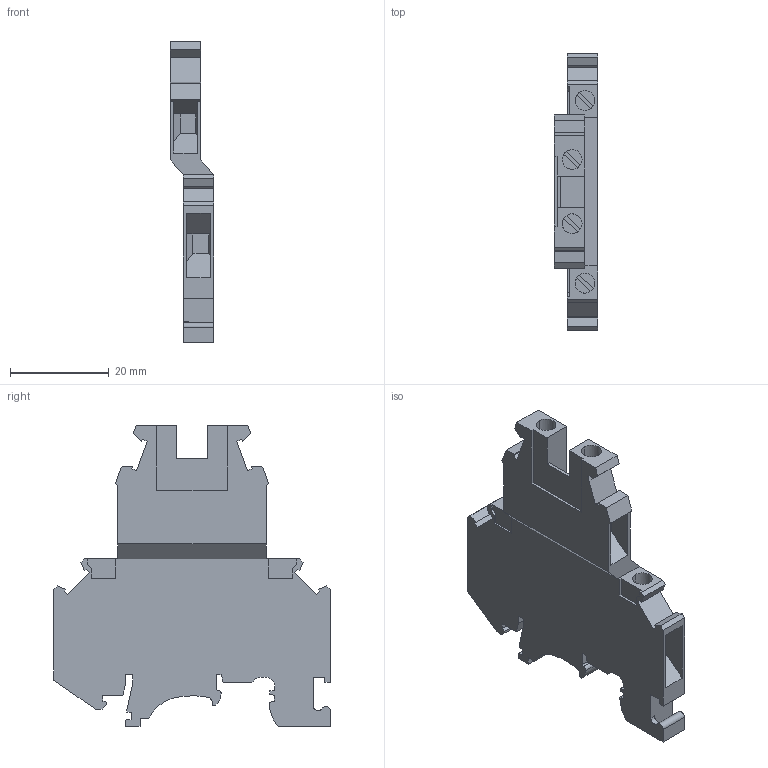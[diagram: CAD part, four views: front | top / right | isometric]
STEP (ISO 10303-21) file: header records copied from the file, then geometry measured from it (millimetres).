
FILE_DESCRIPTION(('Creo Elements/Direct Modeling STEP Export'),'2;1');
FILE_NAME('C:/Temp/JobServerData/JobServer Files/0f94f167-225b-4b65-9e8f-2565fec56fab/work/output/model.stp','2021-02-25T 8:35:53',(''),(''),'Creo Elements/Direct Modeling STEP processor for AP214 (Solid Model)','Creo Elements/Direct Modeling 20.1D 10-Oct-2020 (C) Parametric Technology GmbH','');
FILE_SCHEMA(('AUTOMOTIVE_DESIGN { 1 0 10303 214 1 1 1 1 }'));
Length unit declared in the file: millimetre
Products named in the file (2): UKK_5-PV-select
Assembly tree (1 placements, depth 2):
  UKK_5-PV-select
    UKK_5-PV-select
Bounding box: 8.75 x 56 x 60.9 mm (x, y, z)
Volume: 11956.2 mm3; surface area: 7573.4 mm2
Topology: 1 solids, 1 shells, 198 faces, 566 edges, 376 vertices
Faces by surface type: plane 178, cylinder 20
Entity records: 7864 total; most frequent: ORIENTED_EDGE 1132, CARTESIAN_POINT 1112, DIRECTION 973, EDGE_CURVE 566, VECTOR 499, LINE 499, VERTEX_POINT 376, AXIS2_PLACEMENT_3D 237
